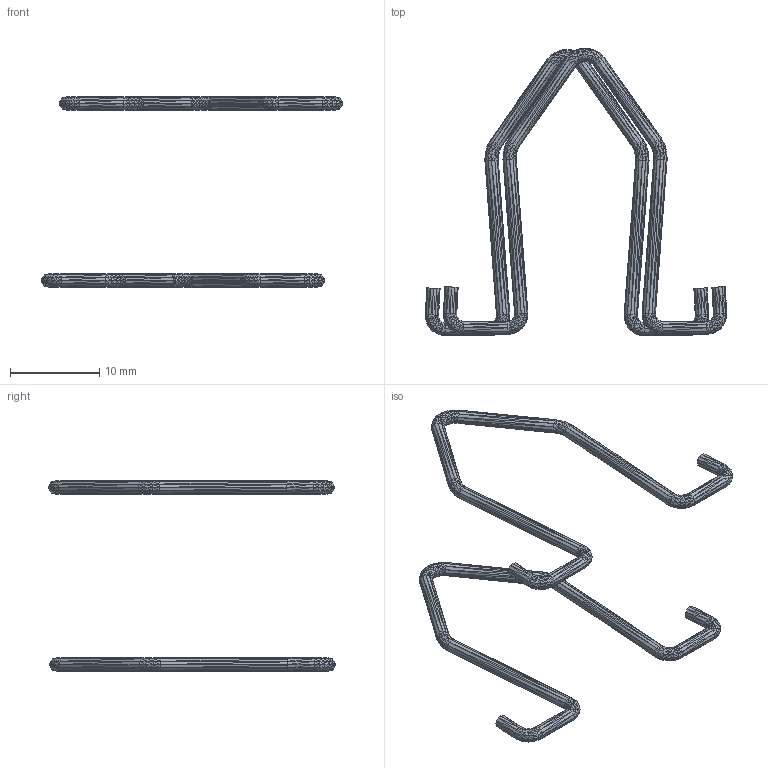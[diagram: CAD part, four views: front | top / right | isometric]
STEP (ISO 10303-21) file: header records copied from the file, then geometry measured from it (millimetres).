
FILE_DESCRIPTION((''),'2;1');
FILE_NAME('051192', '2026-02-20T09:00:23', (''), (''), 'ImageToStl.com STEP Converter','', '');
FILE_SCHEMA(('AUTOMOTIVE_DESIGN_CC2'));
Length unit declared in the file: metre
Products named in the file (1): product0
Bounding box: 33.84 x 32.23 x 21.4 mm (x, y, z)
Surface area: 847.4 mm2 (no closed solid volume)
Topology: 0 solids, 2208 shells, 2208 faces, 6624 edges, 1108 vertices
Faces by surface type: plane 2208
Entity records: 50820 total; most frequent: DIRECTION 11042, ORIENTED_EDGE 6624, EDGE_CURVE 6624, LINE 6624, VECTOR 6624, AXIS2_PLACEMENT_3D 2209, FACE_SURFACE 2208, PLANE 2208
